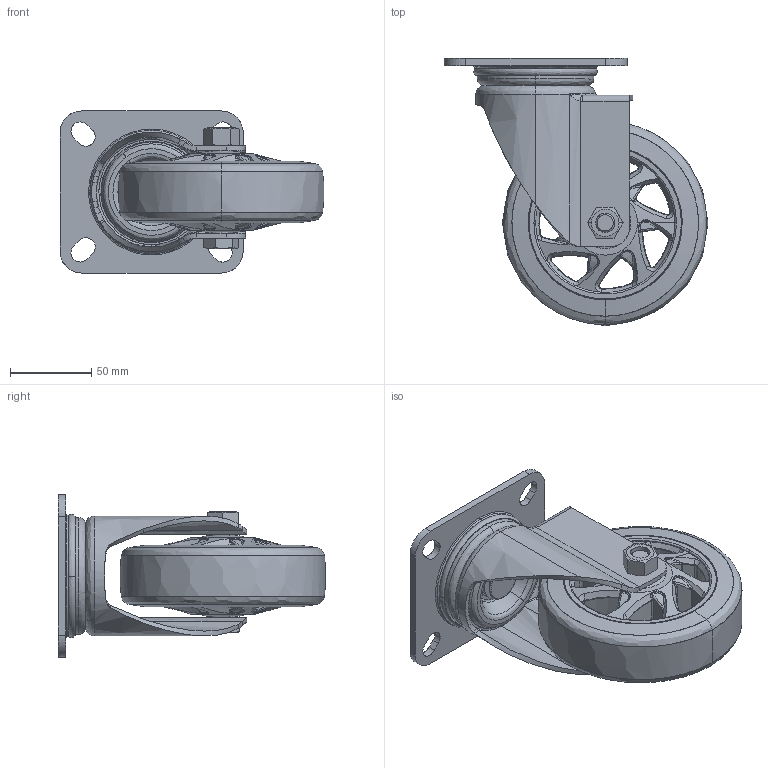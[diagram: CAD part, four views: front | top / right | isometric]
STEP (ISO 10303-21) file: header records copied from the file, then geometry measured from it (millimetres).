
FILE_DESCRIPTION (( 'STEP AP203' ), '1' );
FILE_NAME ('5渡勀砃.STEP', '2024-12-30T06:40:23', ( '' ), ( '' ), 'SwSTEP 2.0', 'SolidWorks 2023', '' );
FILE_SCHEMA (( 'CONFIG_CONTROL_DESIGN' ));
Length unit declared in the file: millimetre
Products named in the file (1): 5寸万向
Bounding box: 162.92 x 164.91 x 100 mm (x, y, z)
Surface area: 201300.5 mm2 (no closed solid volume)
Topology: 0 solids, 87 shells, 1133 faces, 2873 edges, 1675 vertices
Faces by surface type: bspline 1040, plane 93
Entity records: 62015 total; most frequent: CARTESIAN_POINT 45076, ORIENTED_EDGE 5244, EDGE_CURVE 2681, B_SPLINE_CURVE_WITH_KNOTS 1695, VERTEX_POINT 1683, EDGE_LOOP 1200, FACE_OUTER_BOUND 1133, ADVANCED_FACE 1131
